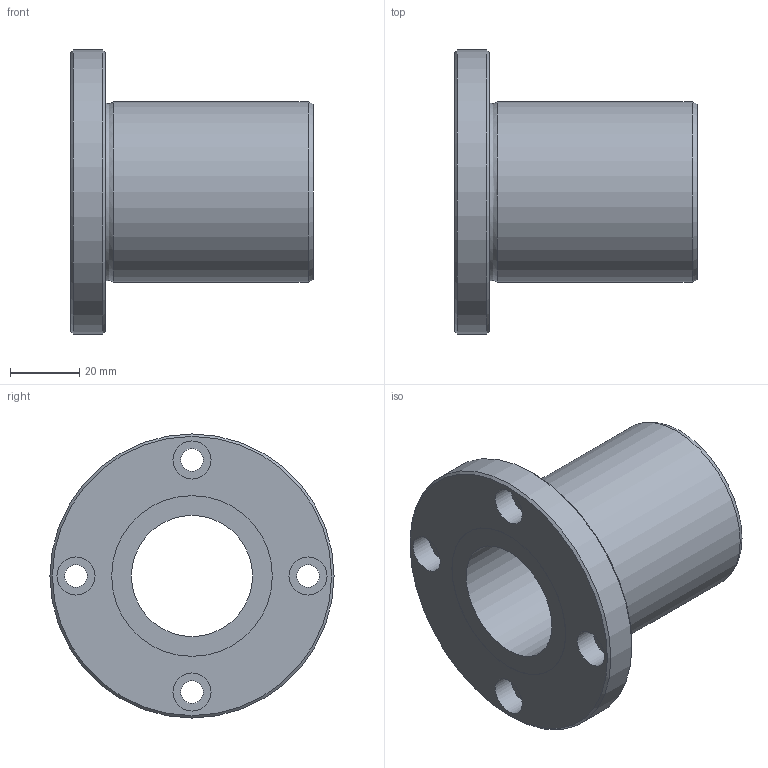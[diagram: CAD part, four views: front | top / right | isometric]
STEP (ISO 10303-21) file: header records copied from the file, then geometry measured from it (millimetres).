
FILE_DESCRIPTION((''),'2;1');
FILE_NAME('D:\製品 (図面)\カタログ用3D\リニアベアリング関連\STEP形式\LF\LF35.stp','2010-06-03T09:14:45',('Tsuchiya'),(''),'Autodesk Inventor 10','Autodesk Inventor 10','');
FILE_SCHEMA(('AUTOMOTIVE_DESIGN { 1 0 10303 214 1 1 1 1 }'));
Length unit declared in the file: millimetre
Products named in the file (1): LF35
Bounding box: 70 x 82 x 82 mm (x, y, z)
Volume: 109451 mm3; surface area: 29395.4 mm2
Topology: 1 solids, 1 shells, 26 faces, 47 edges, 30 vertices
Faces by surface type: cylinder 13, plane 9, cone 2, torus 1, bspline 1
Full cylindrical faces by diameter (mm): 6.6 x4, 11 x4, 35 x1, 46.4 x2, 52 x1, 82 x1
Entity records: 665 total; most frequent: CARTESIAN_POINT 149, DIRECTION 112, ORIENTED_EDGE 60, EDGE_LOOP 60, AXIS2_PLACEMENT_3D 56, FACE_BOUND 34, VERTEX_POINT 30, CIRCLE 30
